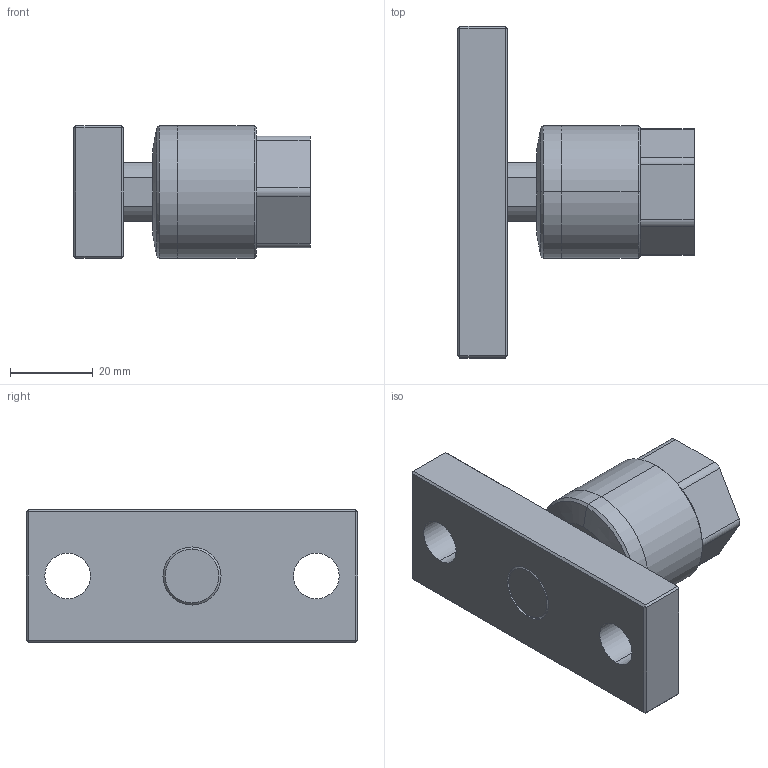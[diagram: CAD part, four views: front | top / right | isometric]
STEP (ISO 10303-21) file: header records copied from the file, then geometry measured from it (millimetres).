
FILE_DESCRIPTION (( 'STEP AP203' ), '1' );
FILE_NAME ('FCM14A-1.5-F.STEP', '2016-04-14T01:58:18', ( '' ), ( '' ), 'SwSTEP 2.0', 'SolidWorks 2014', '' );
FILE_SCHEMA (( 'CONFIG_CONTROL_DESIGN' ));
Length unit declared in the file: millimetre
Products named in the file (3): FCM14A-F; FCM14A-1.5-F; FCM14A-1.5(F)
Assembly tree (2 placements, depth 2):
  FCM14A-1.5-F
    FCM14A-1.5(F)
    FCM14A-F
Bounding box: 57 x 80 x 32 mm (x, y, z)
Volume: 55234.1 mm3; surface area: 15075.2 mm2
Topology: 2 solids, 2 shells, 78 faces, 174 edges, 101 vertices
Faces by surface type: plane 44, cylinder 24, cone 10
Entity records: 2421 total; most frequent: DIRECTION 394, CARTESIAN_POINT 356, ORIENTED_EDGE 344, EDGE_CURVE 172, AXIS2_PLACEMENT_3D 139, VECTOR 116, LINE 116, VERTEX_POINT 101
